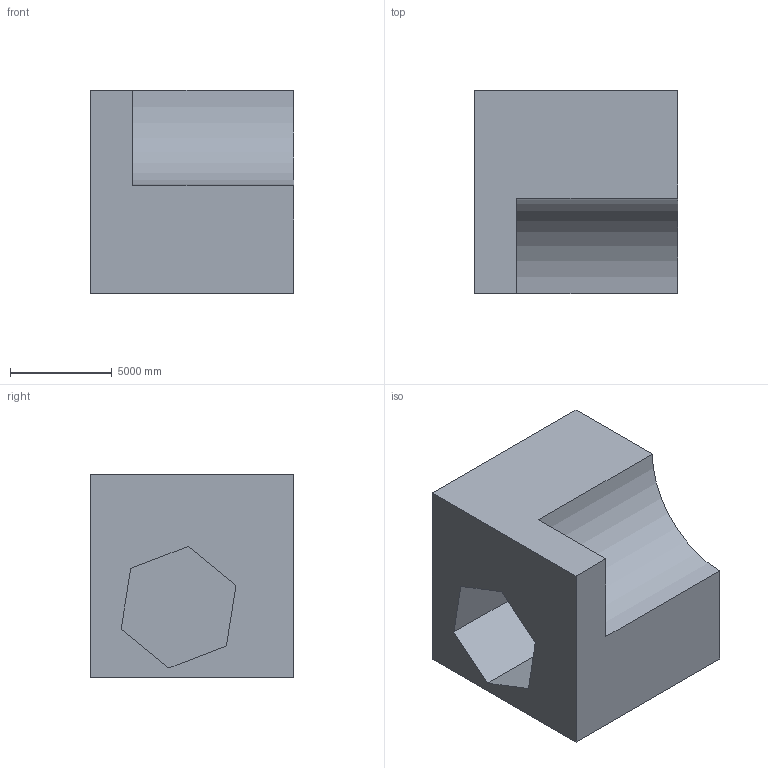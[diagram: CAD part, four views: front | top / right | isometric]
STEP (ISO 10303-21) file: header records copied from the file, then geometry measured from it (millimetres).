
FILE_DESCRIPTION (( 'STEP AP203' ), '1' );
FILE_NAME ('102.STEP', '2022-09-06T15:05:16', ( 'user' ), ( '' ), 'SwSTEP 2.0', 'SolidWorks 2021', '' );
FILE_SCHEMA (( 'CONFIG_CONTROL_DESIGN' ));
Length unit declared in the file: centimetre
Products named in the file (1): 102
Bounding box: 10000 x 10000 x 10000 mm (x, y, z)
Volume: 690815472032.9 mm3; surface area: 715542336.4 mm2
Topology: 1 solids, 1 shells, 15 faces, 36 edges, 24 vertices
Faces by surface type: plane 14, cylinder 1
Entity records: 509 total; most frequent: CARTESIAN_POINT 76, ORIENTED_EDGE 72, DIRECTION 70, EDGE_CURVE 36, LINE 34, VECTOR 34, VERTEX_POINT 24, AXIS2_PLACEMENT_3D 18
